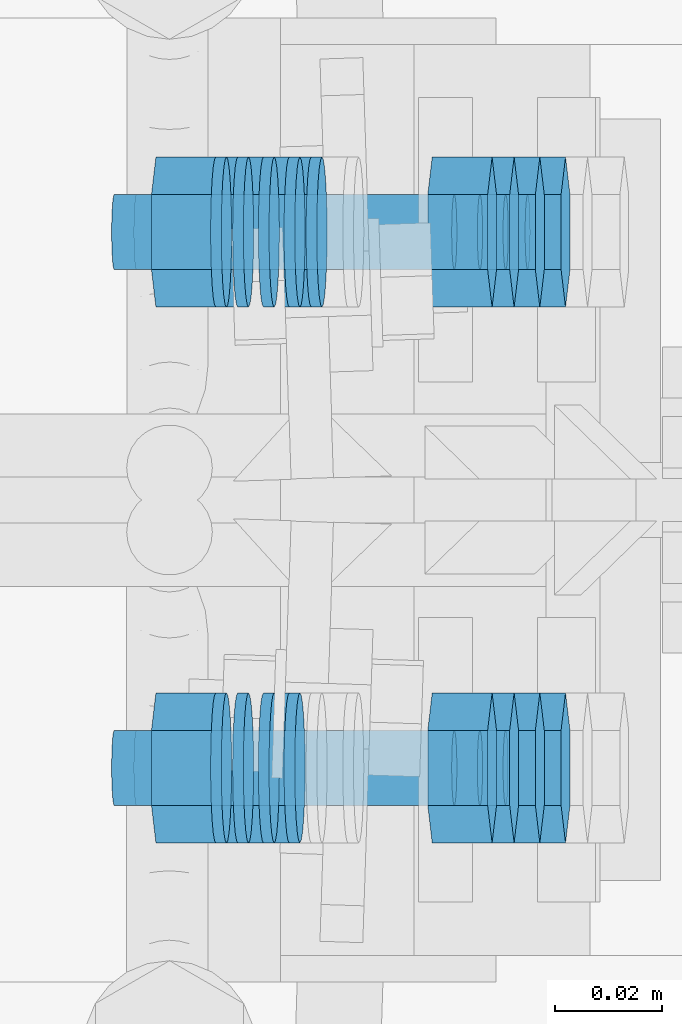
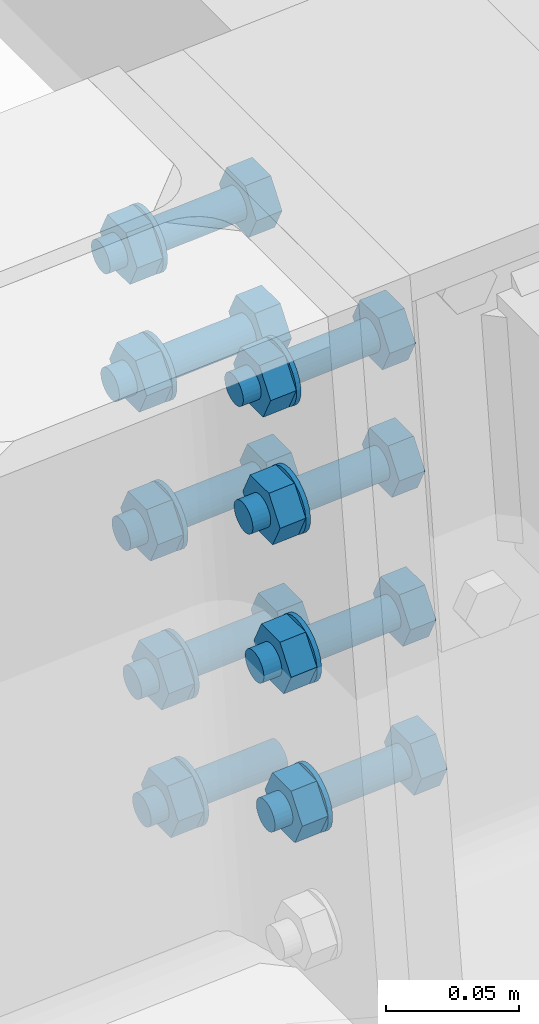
# One storey, part 46 of 72: 35 mechanical fasteners.
"""IFC4 building model written with IfcOpenShell, lengths in metres."""

from ifc_helpers import new_model, si_unit, frame, origin_with_axes, place, context, project, spatial, polyline, outline, extrude, type_object, element, save


model = new_model("IFC4")

# Units and contexts
model_context = context("Model", 3, precision=1e-05, world=origin_with_axes())
ifc_project = project(units=[si_unit("LENGTHUNIT", "METRE"), si_unit("AREAUNIT", "SQUARE_METRE"), si_unit("VOLUMEUNIT", "CUBIC_METRE"), si_unit("MASSUNIT", "GRAM", prefix="KILO"), si_unit("TIMEUNIT", "SECOND"), si_unit("PLANEANGLEUNIT", "RADIAN"), si_unit("SOLIDANGLEUNIT", "STERADIAN"), si_unit("THERMODYNAMICTEMPERATUREUNIT", "DEGREE_CELSIUS")], contexts=[model_context])

# Site, building, storey
placement_1 = place(None, origin_with_axes())
site = spatial("IfcSite", under=ifc_project, at=placement_1, Name="Italia", CompositionType="ELEMENT")
building = spatial("IfcBuilding", under=site, at=placement_1, Name="Pensilina", CompositionType="ELEMENT")
storey = spatial("IfcBuildingStorey", under=building, at=placement_1, Name="Storey 0", CompositionType="ELEMENT", Elevation=0.0)

# Mechanical fasteners
mechanical_fastener_type_1 = type_object("IfcMechanicalFastenerType", Name="Collegamento 0103_0203", PredefinedType="BOLT")
placement_2 = place(placement_1, origin_with_axes())
mechanical_fastener_1_placement = place(placement_2, origin_with_axes())
element("IfcMechanicalFastener", 1, at=mechanical_fastener_1_placement, inside=storey, type_object=mechanical_fastener_type_1, Name="Collegamento 0103_0203", NominalDiameter=0.014, context=model_context, shape_type="SweptSolid", body=[
    extrude(outline(polyline([(0.0, 0.0, 0.0), (-0.000238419, -0.00181174, 0.0), (-0.000937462, -0.00350022, 0.0), (-0.0020504, -0.00494981, 0.0), (-0.00349998, -0.00606227, 0.0), (-0.00518799, -0.00676155, 0.0), (-0.00699997, -0.00699997, 0.0), (-0.00881195, -0.00676155, 0.0), (-0.0105, -0.00606227, 0.0), (-0.0119495, -0.00494981, 0.0), (-0.0130625, -0.00350022, 0.0), (-0.0137615, -0.00181174, 0.0), (-0.0139999, 0.0, 0.0), (-0.0137615, 0.00181174, 0.0), (-0.0130625, 0.00349998, 0.0), (-0.0119495, 0.00494981, 0.0), (-0.0105, 0.00606227, 0.0), (-0.00881195, 0.00676155, 0.0), (-0.00699997, 0.00699997, 0.0), (-0.00518799, 0.00676155, 0.0), (-0.00349998, 0.00606227, 0.0), (-0.0020504, 0.00494981, 0.0), (-0.000937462, 0.00349998, 0.0), (-0.000238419, 0.00181174, 0.0), (0.0, 0.0, 0.0)])), frame((0.863551, 10.617, 3.51536), z_axis=(0.997648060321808, 0.0, 0.068544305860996), x_axis=(0.0, 1.0, 0.0)), (0.0, 0.0, 1.0), 0.0595),
])
mechanical_fastener_type_2 = type_object("IfcMechanicalFastenerType", Name="Collegamento 0103_0203", PredefinedType="BOLT")
mechanical_fastener_2_placement = place(placement_2, origin_with_axes())
element("IfcMechanicalFastener", 2, at=mechanical_fastener_2_placement, inside=storey, type_object=mechanical_fastener_type_2, Name="Collegamento 0103_0203", NominalDiameter=0.0139999, context=model_context, shape_type="SweptSolid", body=[
    extrude(outline(polyline([(0.0, 0.0, 0.0), (-0.0139999, 0.0, 0.0), (-0.0209999, 0.0121245, 0.0), (-0.0139999, 0.0242488, 0.0), (0.0, 0.0242488, 0.0), (0.00699997, 0.0121245, 0.0), (0.0, 0.0, 0.0)])), frame((0.872163, 10.617, 3.5038), z_axis=(0.997648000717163, 0.0, 0.068545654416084), x_axis=(0.0, 1.0, 0.0)), (0.0, 0.0, 1.0), 0.0111999),
])
mechanical_fastener_type_3 = type_object("IfcMechanicalFastenerType", Name="Collegamento 0103_0203", PredefinedType="BOLT")
mechanical_fastener_3_placement = place(placement_2, origin_with_axes())
element("IfcMechanicalFastener", 3, at=mechanical_fastener_3_placement, inside=storey, type_object=mechanical_fastener_type_3, Name="Collegamento 0103_0203", NominalDiameter=0.028, context=model_context, shape_type="SweptSolid", body=[
    extrude(outline(polyline([(0.0, 0.0, 0.0), (-0.000476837, -0.00362349, 0.0), (-0.00187588, -0.00699997, 0.0), (-0.0041008, -0.00989938, 0.0), (-0.00699997, -0.0121243, 0.0), (-0.0103769, -0.0135229, 0.0), (-0.0139999, -0.0139999, 0.0), (-0.0176229, -0.0135229, 0.0), (-0.0209999, -0.0121243, 0.0), (-0.0238991, -0.00989938, 0.0), (-0.026124, -0.00699997, 0.0), (-0.027523, -0.00362349, 0.0), (-0.0279999, 0.0, 0.0), (-0.027523, 0.00362349, 0.0), (-0.026124, 0.00699997, 0.0), (-0.0238991, 0.00989962, 0.0), (-0.0209999, 0.0121245, 0.0), (-0.0176229, 0.0135231, 0.0), (-0.0139999, 0.0139999, 0.0), (-0.0103769, 0.0135231, 0.0), (-0.00699997, 0.0121245, 0.0), (-0.0041008, 0.00989962, 0.0), (-0.00187588, 0.00699997, 0.0), (-0.000476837, 0.00362349, 0.0), (0.0, 0.0, 0.0)])), frame((0.882506, 10.624, 3.51666), z_axis=(0.997648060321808, 0.0, 0.06854435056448), x_axis=(0.0, 1.0, 0.0)), (0.0, 0.0, 1.0), 0.00200003),
])
mechanical_fastener_type_4 = type_object("IfcMechanicalFastenerType", Name="Collegamento 0103_0203", PredefinedType="BOLT")
mechanical_fastener_4_placement = place(placement_2, origin_with_axes())
element("IfcMechanicalFastener", 4, at=mechanical_fastener_4_placement, inside=storey, type_object=mechanical_fastener_type_4, Name="Collegamento 0103_0203", NominalDiameter=0.0139999, context=model_context, shape_type="SweptSolid", body=[
    extrude(outline(polyline([(0.0, 0.0, 0.0), (-0.0139999, 0.0, 0.0), (-0.0209999, 0.0121243, 0.0), (-0.0139999, 0.0242488, 0.0), (0.0, 0.0242488, 0.0), (0.00699997, 0.0121243, 0.0), (0.0, 0.0, 0.0)])), frame((0.919629, 10.517, 3.5672), z_axis=(0.997649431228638, 0.0, 0.068524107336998), x_axis=(0.0, 1.0, 0.0)), (0.0, 0.0, 1.0), 0.0112),
])
mechanical_fastener_type_5 = type_object("IfcMechanicalFastenerType", Name="Collegamento 0103_0203", PredefinedType="BOLT")
mechanical_fastener_5_placement = place(placement_2, origin_with_axes())
element("IfcMechanicalFastener", 5, at=mechanical_fastener_5_placement, inside=storey, type_object=mechanical_fastener_type_5, Name="Collegamento 0103_0203", NominalDiameter=0.014, context=model_context, shape_type="SweptSolid", body=[
    extrude(outline(polyline([(0.0, 0.0, 0.0), (-0.000238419, -0.00181174, 0.0), (-0.000937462, -0.00349998, 0.0), (-0.0020504, -0.00494981, 0.0), (-0.00349998, -0.00606227, 0.0), (-0.00518799, -0.00676155, 0.0), (-0.00699997, -0.00699997, 0.0), (-0.00881195, -0.00676155, 0.0), (-0.0105, -0.00606227, 0.0), (-0.0119495, -0.00494981, 0.0), (-0.0130625, -0.00349998, 0.0), (-0.0137615, -0.00181174, 0.0), (-0.0139999, 0.0, 0.0), (-0.0137615, 0.00181174, 0.0), (-0.0130625, 0.00350022, 0.0), (-0.0119495, 0.00494981, 0.0), (-0.0105, 0.00606227, 0.0), (-0.00881195, 0.00676155, 0.0), (-0.00699997, 0.00699997, 0.0), (-0.00518799, 0.00676155, 0.0), (-0.00349998, 0.00606227, 0.0), (-0.0020504, 0.00494981, 0.0), (-0.000937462, 0.00350022, 0.0), (-0.000238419, 0.00181174, 0.0), (0.0, 0.0, 0.0)])), frame((0.859438, 10.517, 3.57522), z_axis=(0.997648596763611, 0.0, 0.068536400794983), x_axis=(0.0, 1.0, 0.0)), (0.0, 0.0, 1.0), 0.0594999),
])
mechanical_fastener_type_6 = type_object("IfcMechanicalFastenerType", Name="Collegamento 0103_0203", PredefinedType="BOLT")
mechanical_fastener_6_placement = place(placement_2, origin_with_axes())
element("IfcMechanicalFastener", 6, at=mechanical_fastener_6_placement, inside=storey, type_object=mechanical_fastener_type_6, Name="Collegamento 0103_0203", NominalDiameter=0.0139999, context=model_context, shape_type="SweptSolid", body=[
    extrude(outline(polyline([(0.0, 0.0, 0.0), (-0.0139999, 0.0, 0.0), (-0.0209999, 0.0121243, 0.0), (-0.0139999, 0.0242486, 0.0), (0.0, 0.0242486, 0.0), (0.00699997, 0.0121243, 0.0), (0.0, 0.0, 0.0)])), frame((0.868051, 10.517, 3.56365), z_axis=(0.997648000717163, 0.0, 0.068545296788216), x_axis=(0.0, 1.0, 0.0)), (0.0, 0.0, 1.0), 0.0112),
])
mechanical_fastener_type_7 = type_object("IfcMechanicalFastenerType", Name="Collegamento 0103_0203", PredefinedType="BOLT")
mechanical_fastener_7_placement = place(placement_2, origin_with_axes())
element("IfcMechanicalFastener", 7, at=mechanical_fastener_7_placement, inside=storey, type_object=mechanical_fastener_type_7, Name="Collegamento 0103_0203", NominalDiameter=0.028, context=model_context, shape_type="SweptSolid", body=[
    extrude(outline(polyline([(0.0, 0.0, 0.0), (-0.000476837, -0.00362349, 0.0), (-0.00187588, -0.00699997, 0.0), (-0.0041008, -0.00989962, 0.0), (-0.00699997, -0.0121245, 0.0), (-0.0103769, -0.0135229, 0.0), (-0.0139999, -0.0139999, 0.0), (-0.0176229, -0.0135229, 0.0), (-0.0209999, -0.0121245, 0.0), (-0.0238991, -0.00989962, 0.0), (-0.026124, -0.00699997, 0.0), (-0.027523, -0.00362349, 0.0), (-0.0279999, 0.0, 0.0), (-0.027523, 0.00362349, 0.0), (-0.026124, 0.00699997, 0.0), (-0.0238991, 0.00989962, 0.0), (-0.0209999, 0.0121245, 0.0), (-0.0176229, 0.0135229, 0.0), (-0.0139999, 0.0139999, 0.0), (-0.0103769, 0.0135229, 0.0), (-0.00699997, 0.0121245, 0.0), (-0.0041008, 0.00989962, 0.0), (-0.00187588, 0.00699997, 0.0), (-0.000476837, 0.00362349, 0.0), (0.0, 0.0, 0.0)])), frame((0.878394, 10.524, 3.57652), z_axis=(0.997648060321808, 0.0, 0.06854435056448), x_axis=(0.0, 1.0, 0.0)), (0.0, 0.0, 1.0), 0.00200003),
])
mechanical_fastener_type_8 = type_object("IfcMechanicalFastenerType", Name="Collegamento 0103_0203", PredefinedType="BOLT")
mechanical_fastener_8_placement = place(placement_2, origin_with_axes())
element("IfcMechanicalFastener", 8, at=mechanical_fastener_8_placement, inside=storey, type_object=mechanical_fastener_type_8, Name="Collegamento 0103_0203", NominalDiameter=0.0139999, context=model_context, shape_type="SweptSolid", body=[
    extrude(outline(polyline([(0.0, 0.0, 0.0), (-0.0139999, 0.0, 0.0), (-0.0209999, 0.0121243, 0.0), (-0.0139999, 0.0242488, 0.0), (0.0, 0.0242488, 0.0), (0.00699997, 0.0121243, 0.0), (0.0, 0.0, 0.0)])), frame((0.919629, 10.617, 3.5672), z_axis=(0.997649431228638, 0.0, 0.068524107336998), x_axis=(0.0, 1.0, 0.0)), (0.0, 0.0, 1.0), 0.0112),
])
mechanical_fastener_type_9 = type_object("IfcMechanicalFastenerType", Name="Collegamento 0103_0203", PredefinedType="BOLT")
mechanical_fastener_9_placement = place(placement_2, origin_with_axes())
element("IfcMechanicalFastener", 9, at=mechanical_fastener_9_placement, inside=storey, type_object=mechanical_fastener_type_9, Name="Collegamento 0103_0203", NominalDiameter=0.014, context=model_context, shape_type="SweptSolid", body=[
    extrude(outline(polyline([(0.0, 0.0, 0.0), (-0.000238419, -0.00181174, 0.0), (-0.000937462, -0.00349998, 0.0), (-0.0020504, -0.00494981, 0.0), (-0.00349998, -0.00606227, 0.0), (-0.00518799, -0.00676155, 0.0), (-0.00699997, -0.00699997, 0.0), (-0.00881195, -0.00676155, 0.0), (-0.0105, -0.00606227, 0.0), (-0.0119495, -0.00494981, 0.0), (-0.0130625, -0.00349998, 0.0), (-0.0137615, -0.00181174, 0.0), (-0.0139999, 0.0, 0.0), (-0.0137615, 0.00181174, 0.0), (-0.0130625, 0.00350022, 0.0), (-0.0119495, 0.00494981, 0.0), (-0.0105, 0.00606227, 0.0), (-0.00881195, 0.00676155, 0.0), (-0.00699997, 0.00699997, 0.0), (-0.00518799, 0.00676155, 0.0), (-0.00349998, 0.00606227, 0.0), (-0.0020504, 0.00494981, 0.0), (-0.000937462, 0.00350022, 0.0), (-0.000238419, 0.00181174, 0.0), (0.0, 0.0, 0.0)])), frame((0.859438, 10.617, 3.57522), z_axis=(0.997648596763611, 0.0, 0.068536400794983), x_axis=(0.0, 1.0, 0.0)), (0.0, 0.0, 1.0), 0.0594999),
])
mechanical_fastener_type_10 = type_object("IfcMechanicalFastenerType", Name="Collegamento 0103_0203", PredefinedType="BOLT")
mechanical_fastener_10_placement = place(placement_2, origin_with_axes())
element("IfcMechanicalFastener", 10, at=mechanical_fastener_10_placement, inside=storey, type_object=mechanical_fastener_type_10, Name="Collegamento 0103_0203", NominalDiameter=0.0139999, context=model_context, shape_type="SweptSolid", body=[
    extrude(outline(polyline([(0.0, 0.0, 0.0), (-0.0139999, 0.0, 0.0), (-0.0209999, 0.0121243, 0.0), (-0.0139999, 0.0242486, 0.0), (0.0, 0.0242486, 0.0), (0.00699997, 0.0121243, 0.0), (0.0, 0.0, 0.0)])), frame((0.868051, 10.617, 3.56365), z_axis=(0.997648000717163, 0.0, 0.068545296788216), x_axis=(0.0, 1.0, 0.0)), (0.0, 0.0, 1.0), 0.0112),
])
mechanical_fastener_type_11 = type_object("IfcMechanicalFastenerType", Name="Collegamento 0103_0203", PredefinedType="BOLT")
mechanical_fastener_11_placement = place(placement_2, origin_with_axes())
element("IfcMechanicalFastener", 11, at=mechanical_fastener_11_placement, inside=storey, type_object=mechanical_fastener_type_11, Name="Collegamento 0103_0203", NominalDiameter=0.028, context=model_context, shape_type="SweptSolid", body=[
    extrude(outline(polyline([(0.0, 0.0, 0.0), (-0.000476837, -0.00362349, 0.0), (-0.00187588, -0.00699997, 0.0), (-0.0041008, -0.00989962, 0.0), (-0.00699997, -0.0121245, 0.0), (-0.0103769, -0.0135229, 0.0), (-0.0139999, -0.0139999, 0.0), (-0.0176229, -0.0135229, 0.0), (-0.0209999, -0.0121245, 0.0), (-0.0238991, -0.00989962, 0.0), (-0.026124, -0.00699997, 0.0), (-0.027523, -0.00362349, 0.0), (-0.0279999, 0.0, 0.0), (-0.027523, 0.00362349, 0.0), (-0.026124, 0.00699997, 0.0), (-0.0238991, 0.00989962, 0.0), (-0.0209999, 0.0121245, 0.0), (-0.0176229, 0.0135229, 0.0), (-0.0139999, 0.0139999, 0.0), (-0.0103769, 0.0135229, 0.0), (-0.00699997, 0.0121245, 0.0), (-0.0041008, 0.00989962, 0.0), (-0.00187588, 0.00699997, 0.0), (-0.000476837, 0.00362349, 0.0), (0.0, 0.0, 0.0)])), frame((0.878394, 10.624, 3.57652), z_axis=(0.997648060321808, 0.0, 0.06854435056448), x_axis=(0.0, 1.0, 0.0)), (0.0, 0.0, 1.0), 0.00200003),
])
mechanical_fastener_type_12 = type_object("IfcMechanicalFastenerType", Name="Collegamento 0103_0203", PredefinedType="BOLT")
mechanical_fastener_12_placement = place(placement_2, origin_with_axes())
element("IfcMechanicalFastener", 12, at=mechanical_fastener_12_placement, inside=storey, type_object=mechanical_fastener_type_12, Name="Collegamento 0103_0203", NominalDiameter=0.0139999, context=model_context, shape_type="SweptSolid", body=[
    extrude(outline(polyline([(0.0, 0.0, 0.0), (-0.0139999, 0.0, 0.0), (-0.0209999, 0.0121243, 0.0), (-0.0139999, 0.0242488, 0.0), (0.0, 0.0242488, 0.0), (0.00699997, 0.0121243, 0.0), (0.0, 0.0, 0.0)])), frame((0.914832, 10.517, 3.63703), z_axis=(0.997648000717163, 0.0, 0.068545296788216), x_axis=(0.0, 1.0, 0.0)), (0.0, 0.0, 1.0), 0.0112),
])
mechanical_fastener_type_13 = type_object("IfcMechanicalFastenerType", Name="Collegamento 0103_0203", PredefinedType="BOLT")
mechanical_fastener_13_placement = place(placement_2, origin_with_axes())
element("IfcMechanicalFastener", 13, at=mechanical_fastener_13_placement, inside=storey, type_object=mechanical_fastener_type_13, Name="Collegamento 0103_0203", NominalDiameter=0.014, context=model_context, shape_type="SweptSolid", body=[
    extrude(outline(polyline([(0.0, 0.0, 0.0), (-0.000238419, -0.00181174, 0.0), (-0.000937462, -0.00350022, 0.0), (-0.0020504, -0.00494981, 0.0), (-0.00349998, -0.00606227, 0.0), (-0.00518799, -0.00676155, 0.0), (-0.00699997, -0.00699997, 0.0), (-0.00881195, -0.00676155, 0.0), (-0.0105, -0.00606227, 0.0), (-0.0119495, -0.00494981, 0.0), (-0.0130625, -0.00350022, 0.0), (-0.0137615, -0.00181174, 0.0), (-0.0139999, 0.0, 0.0), (-0.0137615, 0.00181174, 0.0), (-0.0130625, 0.00349998, 0.0), (-0.0119495, 0.00494957, 0.0), (-0.0105, 0.00606203, 0.0), (-0.00881195, 0.00676131, 0.0), (-0.00699997, 0.00699997, 0.0), (-0.00518799, 0.00676131, 0.0), (-0.00349998, 0.00606203, 0.0), (-0.0020504, 0.00494957, 0.0), (-0.000937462, 0.00349998, 0.0), (-0.000238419, 0.00181174, 0.0), (0.0, 0.0, 0.0)])), frame((0.85464, 10.517, 3.64505), z_axis=(0.997648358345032, 0.0, 0.068540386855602), x_axis=(0.0, 1.0, 0.0)), (0.0, 0.0, 1.0), 0.0595),
])
mechanical_fastener_type_14 = type_object("IfcMechanicalFastenerType", Name="Collegamento 0103_0203", PredefinedType="BOLT")
mechanical_fastener_14_placement = place(placement_2, origin_with_axes())
element("IfcMechanicalFastener", 14, at=mechanical_fastener_14_placement, inside=storey, type_object=mechanical_fastener_type_14, Name="Collegamento 0103_0203", NominalDiameter=0.0139999, context=model_context, shape_type="SweptSolid", body=[
    extrude(outline(polyline([(0.0, 0.0, 0.0), (-0.0139999, 0.0, 0.0), (-0.0209999, 0.0121243, 0.0), (-0.0139999, 0.0242486, 0.0), (0.0, 0.0242486, 0.0), (0.00699997, 0.0121243, 0.0), (0.0, 0.0, 0.0)])), frame((0.863253, 10.517, 3.63349), z_axis=(0.997649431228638, 0.0, 0.068524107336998), x_axis=(0.0, 1.0, 0.0)), (0.0, 0.0, 1.0), 0.0112),
])
mechanical_fastener_type_15 = type_object("IfcMechanicalFastenerType", Name="Collegamento 0103_0203", PredefinedType="BOLT")
mechanical_fastener_15_placement = place(placement_2, origin_with_axes())
element("IfcMechanicalFastener", 15, at=mechanical_fastener_15_placement, inside=storey, type_object=mechanical_fastener_type_15, Name="Collegamento 0103_0203", NominalDiameter=0.028, context=model_context, shape_type="SweptSolid", body=[
    extrude(outline(polyline([(0.0, 0.0, 0.0), (-0.000476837, -0.00362349, 0.0), (-0.00187588, -0.00699997, 0.0), (-0.0041008, -0.00989938, 0.0), (-0.00699997, -0.0121243, 0.0), (-0.0103769, -0.0135229, 0.0), (-0.0139999, -0.0139999, 0.0), (-0.0176229, -0.0135229, 0.0), (-0.0209999, -0.0121243, 0.0), (-0.0238991, -0.00989938, 0.0), (-0.026124, -0.00699997, 0.0), (-0.027523, -0.00362349, 0.0), (-0.0279999, 0.0, 0.0), (-0.027523, 0.00362349, 0.0), (-0.026124, 0.00699997, 0.0), (-0.0238991, 0.00989962, 0.0), (-0.0209999, 0.0121245, 0.0), (-0.0176229, 0.0135231, 0.0), (-0.0139999, 0.0139999, 0.0), (-0.0103769, 0.0135231, 0.0), (-0.00699997, 0.0121245, 0.0), (-0.0041008, 0.00989962, 0.0), (-0.00187588, 0.00699997, 0.0), (-0.000476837, 0.00362349, 0.0), (0.0, 0.0, 0.0)])), frame((0.873596, 10.524, 3.64635), z_axis=(0.997647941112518, 0.0, 0.068546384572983), x_axis=(0.0, 1.0, 0.0)), (0.0, 0.0, 1.0), 0.00199997),
])
mechanical_fastener_type_16 = type_object("IfcMechanicalFastenerType", Name="Collegamento 0103_0203", PredefinedType="BOLT")
mechanical_fastener_16_placement = place(placement_2, origin_with_axes())
element("IfcMechanicalFastener", 16, at=mechanical_fastener_16_placement, inside=storey, type_object=mechanical_fastener_type_16, Name="Collegamento 0103_0203", NominalDiameter=0.0139999, context=model_context, shape_type="SweptSolid", body=[
    extrude(outline(polyline([(0.0, 0.0, 0.0), (-0.0139999, 0.0, 0.0), (-0.0209999, 0.0121243, 0.0), (-0.0139999, 0.0242488, 0.0), (0.0, 0.0242488, 0.0), (0.00699997, 0.0121243, 0.0), (0.0, 0.0, 0.0)])), frame((0.914832, 10.617, 3.63703), z_axis=(0.997648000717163, 0.0, 0.068545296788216), x_axis=(0.0, 1.0, 0.0)), (0.0, 0.0, 1.0), 0.0112),
])
mechanical_fastener_type_17 = type_object("IfcMechanicalFastenerType", Name="Collegamento 0103_0203", PredefinedType="BOLT")
mechanical_fastener_17_placement = place(placement_2, origin_with_axes())
element("IfcMechanicalFastener", 17, at=mechanical_fastener_17_placement, inside=storey, type_object=mechanical_fastener_type_17, Name="Collegamento 0103_0203", NominalDiameter=0.014, context=model_context, shape_type="SweptSolid", body=[
    extrude(outline(polyline([(0.0, 0.0, 0.0), (-0.000238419, -0.00181174, 0.0), (-0.000937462, -0.00350022, 0.0), (-0.0020504, -0.00494981, 0.0), (-0.00349998, -0.00606227, 0.0), (-0.00518799, -0.00676155, 0.0), (-0.00699997, -0.00699997, 0.0), (-0.00881195, -0.00676155, 0.0), (-0.0105, -0.00606227, 0.0), (-0.0119495, -0.00494981, 0.0), (-0.0130625, -0.00350022, 0.0), (-0.0137615, -0.00181174, 0.0), (-0.0139999, 0.0, 0.0), (-0.0137615, 0.00181174, 0.0), (-0.0130625, 0.00349998, 0.0), (-0.0119495, 0.00494957, 0.0), (-0.0105, 0.00606203, 0.0), (-0.00881195, 0.00676131, 0.0), (-0.00699997, 0.00699997, 0.0), (-0.00518799, 0.00676131, 0.0), (-0.00349998, 0.00606203, 0.0), (-0.0020504, 0.00494957, 0.0), (-0.000937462, 0.00349998, 0.0), (-0.000238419, 0.00181174, 0.0), (0.0, 0.0, 0.0)])), frame((0.85464, 10.617, 3.64505), z_axis=(0.997648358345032, 0.0, 0.068540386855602), x_axis=(0.0, 1.0, 0.0)), (0.0, 0.0, 1.0), 0.0595),
])
mechanical_fastener_type_18 = type_object("IfcMechanicalFastenerType", Name="Collegamento 0103_0203", PredefinedType="BOLT")
mechanical_fastener_18_placement = place(placement_2, origin_with_axes())
element("IfcMechanicalFastener", 18, at=mechanical_fastener_18_placement, inside=storey, type_object=mechanical_fastener_type_18, Name="Collegamento 0103_0203", NominalDiameter=0.0139999, context=model_context, shape_type="SweptSolid", body=[
    extrude(outline(polyline([(0.0, 0.0, 0.0), (-0.0139999, 0.0, 0.0), (-0.0209999, 0.0121243, 0.0), (-0.0139999, 0.0242486, 0.0), (0.0, 0.0242486, 0.0), (0.00699997, 0.0121243, 0.0), (0.0, 0.0, 0.0)])), frame((0.863253, 10.617, 3.63349), z_axis=(0.997649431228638, 0.0, 0.068524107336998), x_axis=(0.0, 1.0, 0.0)), (0.0, 0.0, 1.0), 0.0112),
])
mechanical_fastener_type_19 = type_object("IfcMechanicalFastenerType", Name="Collegamento 0103_0203", PredefinedType="BOLT")
mechanical_fastener_19_placement = place(placement_2, origin_with_axes())
element("IfcMechanicalFastener", 19, at=mechanical_fastener_19_placement, inside=storey, type_object=mechanical_fastener_type_19, Name="Collegamento 0103_0203", NominalDiameter=0.028, context=model_context, shape_type="SweptSolid", body=[
    extrude(outline(polyline([(0.0, 0.0, 0.0), (-0.000476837, -0.00362349, 0.0), (-0.00187588, -0.00699997, 0.0), (-0.0041008, -0.00989938, 0.0), (-0.00699997, -0.0121243, 0.0), (-0.0103769, -0.0135229, 0.0), (-0.0139999, -0.0139999, 0.0), (-0.0176229, -0.0135229, 0.0), (-0.0209999, -0.0121243, 0.0), (-0.0238991, -0.00989938, 0.0), (-0.026124, -0.00699997, 0.0), (-0.027523, -0.00362349, 0.0), (-0.0279999, 0.0, 0.0), (-0.027523, 0.00362349, 0.0), (-0.026124, 0.00699997, 0.0), (-0.0238991, 0.00989962, 0.0), (-0.0209999, 0.0121245, 0.0), (-0.0176229, 0.0135231, 0.0), (-0.0139999, 0.0139999, 0.0), (-0.0103769, 0.0135231, 0.0), (-0.00699997, 0.0121245, 0.0), (-0.0041008, 0.00989962, 0.0), (-0.00187588, 0.00699997, 0.0), (-0.000476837, 0.00362349, 0.0), (0.0, 0.0, 0.0)])), frame((0.873596, 10.624, 3.64635), z_axis=(0.997647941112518, 0.0, 0.068546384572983), x_axis=(0.0, 1.0, 0.0)), (0.0, 0.0, 1.0), 0.00199997),
])
mechanical_fastener_type_20 = type_object("IfcMechanicalFastenerType", Name="Collegamento 0103_0203", PredefinedType="BOLT")
mechanical_fastener_20_placement = place(placement_2, origin_with_axes())
element("IfcMechanicalFastener", 20, at=mechanical_fastener_20_placement, inside=storey, type_object=mechanical_fastener_type_20, Name="Collegamento 0103_0203", NominalDiameter=0.0139999, context=model_context, shape_type="SweptSolid", body=[
    extrude(outline(polyline([(0.0, 0.0, 0.0), (-0.0139999, 0.0, 0.0), (-0.0209999, 0.0121245, 0.0), (-0.0139999, 0.0242486, 0.0), (0.0, 0.0242486, 0.0), (0.00699997, 0.0121245, 0.0), (0.0, 0.0, 0.0)])), frame((0.910034, 10.517, 3.70687), z_axis=(0.997648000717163, 0.0, 0.068545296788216), x_axis=(0.0, 1.0, 0.0)), (0.0, 0.0, 1.0), 0.0112),
])
mechanical_fastener_type_21 = type_object("IfcMechanicalFastenerType", Name="Collegamento 0103_0203", PredefinedType="BOLT")
mechanical_fastener_21_placement = place(placement_2, origin_with_axes())
element("IfcMechanicalFastener", 21, at=mechanical_fastener_21_placement, inside=storey, type_object=mechanical_fastener_type_21, Name="Collegamento 0103_0203", NominalDiameter=0.014, context=model_context, shape_type="SweptSolid", body=[
    extrude(outline(polyline([(0.0, 0.0, 0.0), (-0.000238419, -0.00181174, 0.0), (-0.000937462, -0.00350022, 0.0), (-0.0020504, -0.00494981, 0.0), (-0.00349998, -0.00606227, 0.0), (-0.00518799, -0.00676155, 0.0), (-0.00699997, -0.00699997, 0.0), (-0.00881195, -0.00676155, 0.0), (-0.0105, -0.00606227, 0.0), (-0.0119495, -0.00494981, 0.0), (-0.0130625, -0.00350022, 0.0), (-0.0137615, -0.00181174, 0.0), (-0.0139999, 0.0, 0.0), (-0.0137615, 0.00181174, 0.0), (-0.0130625, 0.00349998, 0.0), (-0.0119495, 0.00494981, 0.0), (-0.0105, 0.00606227, 0.0), (-0.00881195, 0.00676131, 0.0), (-0.00699997, 0.00699997, 0.0), (-0.00518799, 0.00676131, 0.0), (-0.00349998, 0.00606227, 0.0), (-0.0020504, 0.00494981, 0.0), (-0.000937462, 0.00349998, 0.0), (-0.000238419, 0.00181174, 0.0), (0.0, 0.0, 0.0)])), frame((0.849843, 10.517, 3.71489), z_axis=(0.997648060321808, 0.0, 0.068544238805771), x_axis=(0.0, 1.0, 0.0)), (0.0, 0.0, 1.0), 0.0595001),
])
mechanical_fastener_type_22 = type_object("IfcMechanicalFastenerType", Name="Collegamento 0103_0203", PredefinedType="BOLT")
mechanical_fastener_22_placement = place(placement_2, origin_with_axes())
element("IfcMechanicalFastener", 22, at=mechanical_fastener_22_placement, inside=storey, type_object=mechanical_fastener_type_22, Name="Collegamento 0103_0203", NominalDiameter=0.0139999, context=model_context, shape_type="SweptSolid", body=[
    extrude(outline(polyline([(0.0, 0.0, 0.0), (-0.0139999, 0.0, 0.0), (-0.0209999, 0.0121245, 0.0), (-0.0139999, 0.0242488, 0.0), (0.0, 0.0242488, 0.0), (0.00699997, 0.0121245, 0.0), (0.0, 0.0, 0.0)])), frame((0.858455, 10.517, 3.70333), z_axis=(0.997648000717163, 0.0, 0.068545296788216), x_axis=(0.0, 1.0, 0.0)), (0.0, 0.0, 1.0), 0.0112),
])
mechanical_fastener_type_23 = type_object("IfcMechanicalFastenerType", Name="Collegamento 0103_0203", PredefinedType="BOLT")
mechanical_fastener_23_placement = place(placement_2, origin_with_axes())
element("IfcMechanicalFastener", 23, at=mechanical_fastener_23_placement, inside=storey, type_object=mechanical_fastener_type_23, Name="Collegamento 0103_0203", NominalDiameter=0.028, context=model_context, shape_type="SweptSolid", body=[
    extrude(outline(polyline([(0.0, 0.0, 0.0), (-0.000476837, -0.00362349, 0.0), (-0.00187588, -0.00699997, 0.0), (-0.0041008, -0.00989962, 0.0), (-0.00699997, -0.0121245, 0.0), (-0.0103769, -0.0135229, 0.0), (-0.0139999, -0.0139999, 0.0), (-0.0176229, -0.0135229, 0.0), (-0.0209999, -0.0121245, 0.0), (-0.0238991, -0.00989962, 0.0), (-0.026124, -0.00699997, 0.0), (-0.027523, -0.00362349, 0.0), (-0.0279999, 0.0, 0.0), (-0.027523, 0.00362349, 0.0), (-0.026124, 0.00699997, 0.0), (-0.0238991, 0.00989962, 0.0), (-0.0209999, 0.0121245, 0.0), (-0.0176229, 0.0135229, 0.0), (-0.0139999, 0.0139999, 0.0), (-0.0103769, 0.0135229, 0.0), (-0.00699997, 0.0121245, 0.0), (-0.0041008, 0.00989962, 0.0), (-0.00187588, 0.00699997, 0.0), (-0.000476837, 0.00362349, 0.0), (0.0, 0.0, 0.0)])), frame((0.868798, 10.524, 3.71619), z_axis=(0.997648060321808, 0.0, 0.06854435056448), x_axis=(0.0, 1.0, 0.0)), (0.0, 0.0, 1.0), 0.00200003),
])
mechanical_fastener_type_24 = type_object("IfcMechanicalFastenerType", Name="Collegamento 0103_0203", PredefinedType="BOLT")
mechanical_fastener_24_placement = place(placement_2, origin_with_axes())
element("IfcMechanicalFastener", 24, at=mechanical_fastener_24_placement, inside=storey, type_object=mechanical_fastener_type_24, Name="Collegamento 0103_0203", NominalDiameter=0.0139999, context=model_context, shape_type="SweptSolid", body=[
    extrude(outline(polyline([(0.0, 0.0, 0.0), (-0.0139999, 0.0, 0.0), (-0.0209999, 0.0121245, 0.0), (-0.0139999, 0.0242486, 0.0), (0.0, 0.0242486, 0.0), (0.00699997, 0.0121245, 0.0), (0.0, 0.0, 0.0)])), frame((0.910034, 10.617, 3.70687), z_axis=(0.997648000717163, 0.0, 0.068545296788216), x_axis=(0.0, 1.0, 0.0)), (0.0, 0.0, 1.0), 0.0112),
])
mechanical_fastener_type_25 = type_object("IfcMechanicalFastenerType", Name="Collegamento 0103_0203", PredefinedType="BOLT")
mechanical_fastener_25_placement = place(placement_2, origin_with_axes())
element("IfcMechanicalFastener", 25, at=mechanical_fastener_25_placement, inside=storey, type_object=mechanical_fastener_type_25, Name="Collegamento 0103_0203", NominalDiameter=0.014, context=model_context, shape_type="SweptSolid", body=[
    extrude(outline(polyline([(0.0, 0.0, 0.0), (-0.000238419, -0.00181174, 0.0), (-0.000937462, -0.00350022, 0.0), (-0.0020504, -0.00494981, 0.0), (-0.00349998, -0.00606227, 0.0), (-0.00518799, -0.00676155, 0.0), (-0.00699997, -0.00699997, 0.0), (-0.00881195, -0.00676155, 0.0), (-0.0105, -0.00606227, 0.0), (-0.0119495, -0.00494981, 0.0), (-0.0130625, -0.00350022, 0.0), (-0.0137615, -0.00181174, 0.0), (-0.0139999, 0.0, 0.0), (-0.0137615, 0.00181174, 0.0), (-0.0130625, 0.00349998, 0.0), (-0.0119495, 0.00494981, 0.0), (-0.0105, 0.00606227, 0.0), (-0.00881195, 0.00676131, 0.0), (-0.00699997, 0.00699997, 0.0), (-0.00518799, 0.00676131, 0.0), (-0.00349998, 0.00606227, 0.0), (-0.0020504, 0.00494981, 0.0), (-0.000937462, 0.00349998, 0.0), (-0.000238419, 0.00181174, 0.0), (0.0, 0.0, 0.0)])), frame((0.849843, 10.617, 3.71489), z_axis=(0.997648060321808, 0.0, 0.068544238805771), x_axis=(0.0, 1.0, 0.0)), (0.0, 0.0, 1.0), 0.0595001),
])
mechanical_fastener_type_26 = type_object("IfcMechanicalFastenerType", Name="Collegamento 0103_0203", PredefinedType="BOLT")
mechanical_fastener_26_placement = place(placement_2, origin_with_axes())
element("IfcMechanicalFastener", 26, at=mechanical_fastener_26_placement, inside=storey, type_object=mechanical_fastener_type_26, Name="Collegamento 0103_0203", NominalDiameter=0.0139999, context=model_context, shape_type="SweptSolid", body=[
    extrude(outline(polyline([(0.0, 0.0, 0.0), (-0.0139999, 0.0, 0.0), (-0.0209999, 0.0121245, 0.0), (-0.0139999, 0.0242488, 0.0), (0.0, 0.0242488, 0.0), (0.00699997, 0.0121245, 0.0), (0.0, 0.0, 0.0)])), frame((0.858455, 10.617, 3.70333), z_axis=(0.997648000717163, 0.0, 0.068545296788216), x_axis=(0.0, 1.0, 0.0)), (0.0, 0.0, 1.0), 0.0112),
])
mechanical_fastener_type_27 = type_object("IfcMechanicalFastenerType", Name="Collegamento 0103_0203", PredefinedType="BOLT")
mechanical_fastener_27_placement = place(placement_2, origin_with_axes())
element("IfcMechanicalFastener", 27, at=mechanical_fastener_27_placement, inside=storey, type_object=mechanical_fastener_type_27, Name="Collegamento 0103_0203", NominalDiameter=0.028, context=model_context, shape_type="SweptSolid", body=[
    extrude(outline(polyline([(0.0, 0.0, 0.0), (-0.000476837, -0.00362349, 0.0), (-0.00187588, -0.00699997, 0.0), (-0.0041008, -0.00989962, 0.0), (-0.00699997, -0.0121245, 0.0), (-0.0103769, -0.0135229, 0.0), (-0.0139999, -0.0139999, 0.0), (-0.0176229, -0.0135229, 0.0), (-0.0209999, -0.0121245, 0.0), (-0.0238991, -0.00989962, 0.0), (-0.026124, -0.00699997, 0.0), (-0.027523, -0.00362349, 0.0), (-0.0279999, 0.0, 0.0), (-0.027523, 0.00362349, 0.0), (-0.026124, 0.00699997, 0.0), (-0.0238991, 0.00989962, 0.0), (-0.0209999, 0.0121245, 0.0), (-0.0176229, 0.0135229, 0.0), (-0.0139999, 0.0139999, 0.0), (-0.0103769, 0.0135229, 0.0), (-0.00699997, 0.0121245, 0.0), (-0.0041008, 0.00989962, 0.0), (-0.00187588, 0.00699997, 0.0), (-0.000476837, 0.00362349, 0.0), (0.0, 0.0, 0.0)])), frame((0.868798, 10.624, 3.71619), z_axis=(0.997648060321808, 0.0, 0.06854435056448), x_axis=(0.0, 1.0, 0.0)), (0.0, 0.0, 1.0), 0.00200003),
])
mechanical_fastener_type_28 = type_object("IfcMechanicalFastenerType", Name="Collegamento 0103_0203", PredefinedType="BOLT")
mechanical_fastener_28_placement = place(placement_2, origin_with_axes())
element("IfcMechanicalFastener", 28, at=mechanical_fastener_28_placement, inside=storey, type_object=mechanical_fastener_type_28, Name="Collegamento 0103_0203", NominalDiameter=0.0139999, context=model_context, shape_type="SweptSolid", body=[
    extrude(outline(polyline([(0.0, 0.0, 0.0), (-0.0139999, 0.0, 0.0), (-0.0209999, 0.0121243, 0.0), (-0.0139999, 0.0242486, 0.0), (0.0, 0.0242486, 0.0), (0.00699997, 0.0121243, 0.0), (0.0, 0.0, 0.0)])), frame((0.905921, 10.517, 3.76673), z_axis=(0.997649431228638, 0.0, 0.068524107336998), x_axis=(0.0, 1.0, 0.0)), (0.0, 0.0, 1.0), 0.0112),
])
mechanical_fastener_type_29 = type_object("IfcMechanicalFastenerType", Name="Collegamento 0103_0203", PredefinedType="BOLT")
mechanical_fastener_29_placement = place(placement_2, origin_with_axes())
element("IfcMechanicalFastener", 29, at=mechanical_fastener_29_placement, inside=storey, type_object=mechanical_fastener_type_29, Name="Collegamento 0103_0203", NominalDiameter=0.014, context=model_context, shape_type="SweptSolid", body=[
    extrude(outline(polyline([(0.0, 0.0, 0.0), (-0.000238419, -0.00181174, 0.0), (-0.000937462, -0.00350022, 0.0), (-0.0020504, -0.00494981, 0.0), (-0.00349998, -0.00606227, 0.0), (-0.00518799, -0.00676155, 0.0), (-0.00699997, -0.00699997, 0.0), (-0.00881195, -0.00676155, 0.0), (-0.0105, -0.00606227, 0.0), (-0.0119495, -0.00494981, 0.0), (-0.0130625, -0.00350022, 0.0), (-0.0137615, -0.00181174, 0.0), (-0.0139999, 0.0, 0.0), (-0.0137615, 0.00181174, 0.0), (-0.0130625, 0.00349998, 0.0), (-0.0119495, 0.00494981, 0.0), (-0.0105, 0.00606227, 0.0), (-0.00881195, 0.00676155, 0.0), (-0.00699997, 0.00699997, 0.0), (-0.00518799, 0.00676155, 0.0), (-0.00349998, 0.00606227, 0.0), (-0.0020504, 0.00494981, 0.0), (-0.000937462, 0.00349998, 0.0), (-0.000238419, 0.00181174, 0.0), (0.0, 0.0, 0.0)])), frame((0.84573, 10.517, 3.77475), z_axis=(0.997648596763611, 0.0, 0.068536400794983), x_axis=(0.0, 1.0, 0.0)), (0.0, 0.0, 1.0), 0.0594999),
])
mechanical_fastener_type_30 = type_object("IfcMechanicalFastenerType", Name="Collegamento 0103_0203", PredefinedType="BOLT")
mechanical_fastener_30_placement = place(placement_2, origin_with_axes())
element("IfcMechanicalFastener", 30, at=mechanical_fastener_30_placement, inside=storey, type_object=mechanical_fastener_type_30, Name="Collegamento 0103_0203", NominalDiameter=0.0139999, context=model_context, shape_type="SweptSolid", body=[
    extrude(outline(polyline([(0.0, 0.0, 0.0), (-0.0139999, 0.0, 0.0), (-0.0209999, 0.0121241, 0.0), (-0.0139999, 0.0242486, 0.0), (0.0, 0.0242486, 0.0), (0.00699997, 0.0121241, 0.0), (0.0, 0.0, 0.0)])), frame((0.854343, 10.517, 3.76318), z_axis=(0.997648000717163, 0.0, 0.068545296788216), x_axis=(0.0, 1.0, 0.0)), (0.0, 0.0, 1.0), 0.0112),
])
mechanical_fastener_type_31 = type_object("IfcMechanicalFastenerType", Name="Collegamento 0103_0203", PredefinedType="BOLT")
mechanical_fastener_31_placement = place(placement_2, origin_with_axes())
element("IfcMechanicalFastener", 31, at=mechanical_fastener_31_placement, inside=storey, type_object=mechanical_fastener_type_31, Name="Collegamento 0103_0203", NominalDiameter=0.028, context=model_context, shape_type="SweptSolid", body=[
    extrude(outline(polyline([(0.0, 0.0, 0.0), (-0.000476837, -0.00362325, 0.0), (-0.00187588, -0.00699997, 0.0), (-0.0041008, -0.00989938, 0.0), (-0.00699997, -0.0121243, 0.0), (-0.0103769, -0.0135229, 0.0), (-0.0139999, -0.0139999, 0.0), (-0.0176229, -0.0135229, 0.0), (-0.0209999, -0.0121243, 0.0), (-0.0238991, -0.00989938, 0.0), (-0.026124, -0.00699997, 0.0), (-0.027523, -0.00362325, 0.0), (-0.0279999, 0.0, 0.0), (-0.027523, 0.00362349, 0.0), (-0.026124, 0.00700021, 0.0), (-0.0238991, 0.00989962, 0.0), (-0.0209999, 0.0121245, 0.0), (-0.0176229, 0.0135231, 0.0), (-0.0139999, 0.0140002, 0.0), (-0.0103769, 0.0135231, 0.0), (-0.00699997, 0.0121245, 0.0), (-0.0041008, 0.00989962, 0.0), (-0.00187588, 0.00700021, 0.0), (-0.000476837, 0.00362349, 0.0), (0.0, 0.0, 0.0)])), frame((0.864685, 10.524, 3.77605), z_axis=(0.997647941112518, 0.0, 0.068546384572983), x_axis=(0.0, 1.0, 0.0)), (0.0, 0.0, 1.0), 0.00199997),
])
mechanical_fastener_type_32 = type_object("IfcMechanicalFastenerType", Name="Collegamento 0103_0203", PredefinedType="BOLT")
mechanical_fastener_32_placement = place(placement_2, origin_with_axes())
element("IfcMechanicalFastener", 32, at=mechanical_fastener_32_placement, inside=storey, type_object=mechanical_fastener_type_32, Name="Collegamento 0103_0203", NominalDiameter=0.0139999, context=model_context, shape_type="SweptSolid", body=[
    extrude(outline(polyline([(0.0, 0.0, 0.0), (-0.0139999, 0.0, 0.0), (-0.0209999, 0.0121243, 0.0), (-0.0139999, 0.0242486, 0.0), (0.0, 0.0242486, 0.0), (0.00699997, 0.0121243, 0.0), (0.0, 0.0, 0.0)])), frame((0.905921, 10.617, 3.76673), z_axis=(0.997649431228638, 0.0, 0.068524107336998), x_axis=(0.0, 1.0, 0.0)), (0.0, 0.0, 1.0), 0.0112),
])
mechanical_fastener_type_33 = type_object("IfcMechanicalFastenerType", Name="Collegamento 0103_0203", PredefinedType="BOLT")
mechanical_fastener_33_placement = place(placement_2, origin_with_axes())
element("IfcMechanicalFastener", 33, at=mechanical_fastener_33_placement, inside=storey, type_object=mechanical_fastener_type_33, Name="Collegamento 0103_0203", NominalDiameter=0.014, context=model_context, shape_type="SweptSolid", body=[
    extrude(outline(polyline([(0.0, 0.0, 0.0), (-0.000238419, -0.00181174, 0.0), (-0.000937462, -0.00350022, 0.0), (-0.0020504, -0.00494981, 0.0), (-0.00349998, -0.00606227, 0.0), (-0.00518799, -0.00676155, 0.0), (-0.00699997, -0.00699997, 0.0), (-0.00881195, -0.00676155, 0.0), (-0.0105, -0.00606227, 0.0), (-0.0119495, -0.00494981, 0.0), (-0.0130625, -0.00350022, 0.0), (-0.0137615, -0.00181174, 0.0), (-0.0139999, 0.0, 0.0), (-0.0137615, 0.00181174, 0.0), (-0.0130625, 0.00349998, 0.0), (-0.0119495, 0.00494981, 0.0), (-0.0105, 0.00606227, 0.0), (-0.00881195, 0.00676155, 0.0), (-0.00699997, 0.00699997, 0.0), (-0.00518799, 0.00676155, 0.0), (-0.00349998, 0.00606227, 0.0), (-0.0020504, 0.00494981, 0.0), (-0.000937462, 0.00349998, 0.0), (-0.000238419, 0.00181174, 0.0), (0.0, 0.0, 0.0)])), frame((0.84573, 10.617, 3.77475), z_axis=(0.997648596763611, 0.0, 0.068536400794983), x_axis=(0.0, 1.0, 0.0)), (0.0, 0.0, 1.0), 0.0594999),
])
mechanical_fastener_type_34 = type_object("IfcMechanicalFastenerType", Name="Collegamento 0103_0203", PredefinedType="BOLT")
mechanical_fastener_34_placement = place(placement_2, origin_with_axes())
element("IfcMechanicalFastener", 34, at=mechanical_fastener_34_placement, inside=storey, type_object=mechanical_fastener_type_34, Name="Collegamento 0103_0203", NominalDiameter=0.0139999, context=model_context, shape_type="SweptSolid", body=[
    extrude(outline(polyline([(0.0, 0.0, 0.0), (-0.0139999, 0.0, 0.0), (-0.0209999, 0.0121241, 0.0), (-0.0139999, 0.0242486, 0.0), (0.0, 0.0242486, 0.0), (0.00699997, 0.0121241, 0.0), (0.0, 0.0, 0.0)])), frame((0.854343, 10.617, 3.76318), z_axis=(0.997648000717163, 0.0, 0.068545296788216), x_axis=(0.0, 1.0, 0.0)), (0.0, 0.0, 1.0), 0.0112),
])
mechanical_fastener_type_35 = type_object("IfcMechanicalFastenerType", Name="Collegamento 0103_0203", PredefinedType="BOLT")
mechanical_fastener_35_placement = place(placement_2, origin_with_axes())
element("IfcMechanicalFastener", 35, at=mechanical_fastener_35_placement, inside=storey, type_object=mechanical_fastener_type_35, Name="Collegamento 0103_0203", NominalDiameter=0.028, context=model_context, shape_type="SweptSolid", body=[
    extrude(outline(polyline([(0.0, 0.0, 0.0), (-0.000476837, -0.00362325, 0.0), (-0.00187588, -0.00699997, 0.0), (-0.0041008, -0.00989938, 0.0), (-0.00699997, -0.0121243, 0.0), (-0.0103769, -0.0135229, 0.0), (-0.0139999, -0.0139999, 0.0), (-0.0176229, -0.0135229, 0.0), (-0.0209999, -0.0121243, 0.0), (-0.0238991, -0.00989938, 0.0), (-0.026124, -0.00699997, 0.0), (-0.027523, -0.00362325, 0.0), (-0.0279999, 0.0, 0.0), (-0.027523, 0.00362349, 0.0), (-0.026124, 0.00700021, 0.0), (-0.0238991, 0.00989962, 0.0), (-0.0209999, 0.0121245, 0.0), (-0.0176229, 0.0135231, 0.0), (-0.0139999, 0.0140002, 0.0), (-0.0103769, 0.0135231, 0.0), (-0.00699997, 0.0121245, 0.0), (-0.0041008, 0.00989962, 0.0), (-0.00187588, 0.00700021, 0.0), (-0.000476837, 0.00362349, 0.0), (0.0, 0.0, 0.0)])), frame((0.864685, 10.624, 3.77605), z_axis=(0.997647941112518, 0.0, 0.068546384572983), x_axis=(0.0, 1.0, 0.0)), (0.0, 0.0, 1.0), 0.00199997),
])

save(model, "model.ifc")
